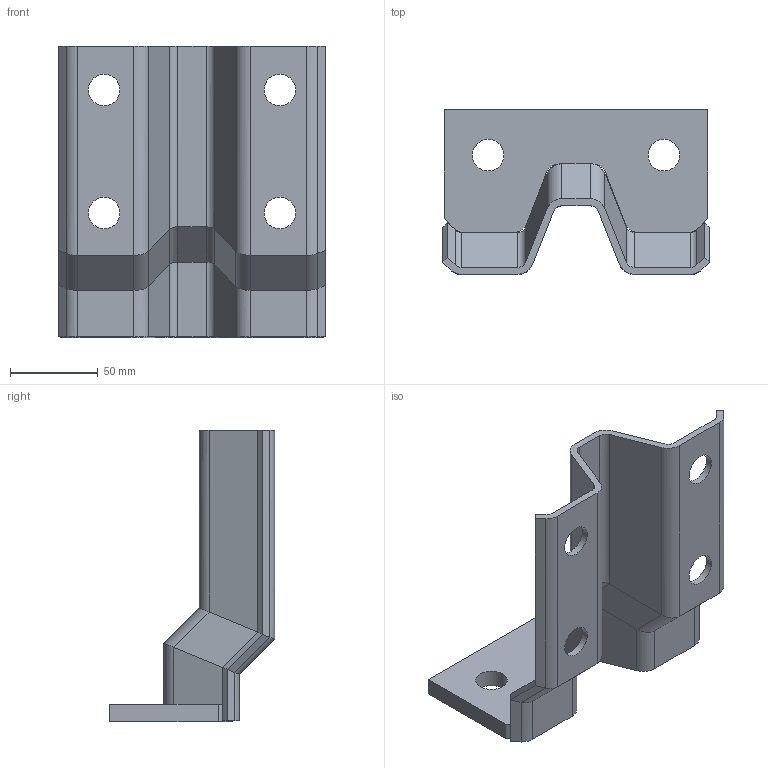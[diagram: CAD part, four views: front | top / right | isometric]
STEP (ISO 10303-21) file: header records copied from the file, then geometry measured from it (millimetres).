
FILE_DESCRIPTION(/* description */ (''),/* implementation_level */ '2;1');
FILE_NAME(/* name */ 'B200W100.stp',/* time_stamp */ '2023-07-03T10:40:59+02:00',/* author */ ('woriedl'),/* organization */ (''),/* preprocessor_version */ 'ST-DEVELOPER v19.2',/* originating_system */ 'AutoCAD Mechanical',/* authorisation */ '');
FILE_SCHEMA (('AUTOMOTIVE_DESIGN { 1 0 10303 214 3 1 1 }'));
Length unit declared in the file: centimetre
Products named in the file (1): Product
Bounding box: 151.72 x 94 x 166 mm (x, y, z)
Volume: 217917.1 mm3; surface area: 92892.6 mm2
Topology: 1 solids, 1 shells, 110 faces, 274 edges, 162 vertices
Faces by surface type: plane 62, cylinder 48
Full cylindrical faces by diameter (mm): 18 x6
Entity records: 3249 total; most frequent: DIRECTION 568, ORIENTED_EDGE 548, CARTESIAN_POINT 547, EDGE_CURVE 274, LINE 202, VECTOR 202, AXIS2_PLACEMENT_3D 183, VERTEX_POINT 162
